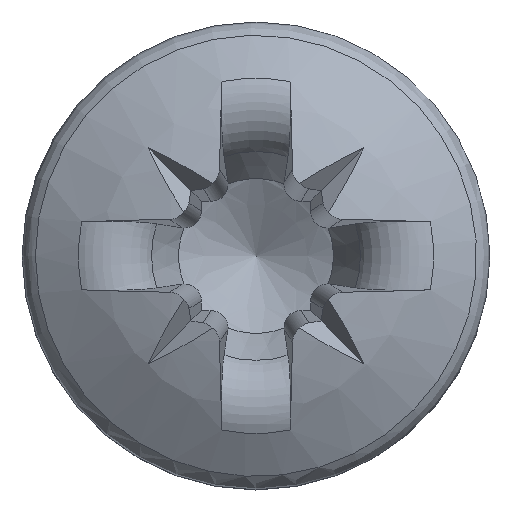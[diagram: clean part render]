
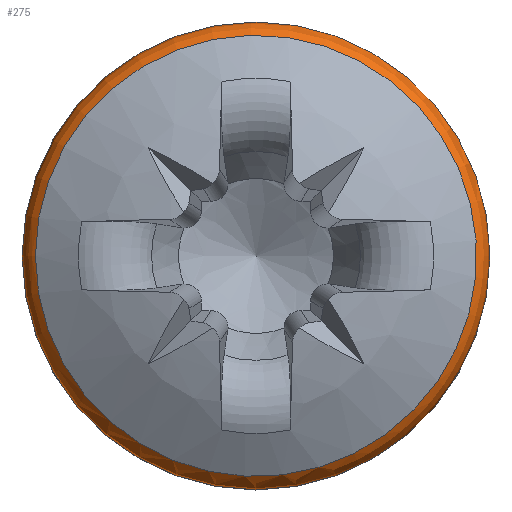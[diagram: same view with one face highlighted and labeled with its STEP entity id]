
A CAD part, top view. The second image highlights one B-rep face of the part: STEP entity #275.
In plain terms, the highlighted toroidal (fillet/blend) face has major radius 1.127 mm and minor radius 0.173 mm.
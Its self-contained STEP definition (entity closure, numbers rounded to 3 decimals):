
#204=TOROIDAL_SURFACE('',#1334,1.127,0.173);
#219=FACE_BOUND('',#424,.T.);
#220=FACE_BOUND('',#425,.T.);
#275=ADVANCED_FACE('',(#219,#220),#204,.T.);
#424=EDGE_LOOP('',(#761));
#425=EDGE_LOOP('',(#762));
#453=CIRCLE('',#1242,1.226);
#480=CIRCLE('',#1275,1.3);
#761=ORIENTED_EDGE('',*,*,#1032,.F.);
#762=ORIENTED_EDGE('',*,*,#983,.F.);
#863=VERTEX_POINT('',#1884);
#909=VERTEX_POINT('',#2510);
#983=EDGE_CURVE('',#863,#863,#453,.T.);
#1032=EDGE_CURVE('',#909,#909,#480,.T.);
#1242=AXIS2_PLACEMENT_3D('',#1883,#1349,#1350);
#1275=AXIS2_PLACEMENT_3D('',#2509,#1415,#1416);
#1334=AXIS2_PLACEMENT_3D('',#3026,#1565,#1566);
#1349=DIRECTION('',(0.,0.,1.));
#1350=DIRECTION('',(-1.,0.,0.));
#1415=DIRECTION('',(0.,0.,-1.));
#1416=DIRECTION('',(-1.,0.,0.));
#1565=DIRECTION('',(0.,0.,-1.));
#1566=DIRECTION('',(-1.,0.,0.));
#1883=CARTESIAN_POINT('',(0.,0.,0.714));
#1884=CARTESIAN_POINT('',(-1.226,0.,0.714));
#2509=CARTESIAN_POINT('',(0.,0.,0.572));
#2510=CARTESIAN_POINT('',(-1.3,0.,0.572));
#3026=CARTESIAN_POINT('',(0.,0.,0.572));
